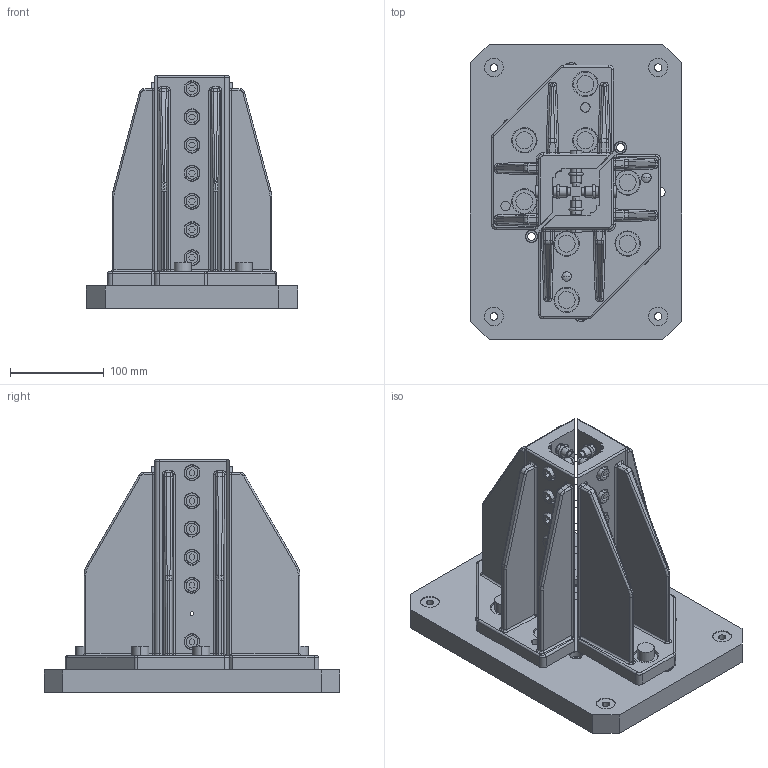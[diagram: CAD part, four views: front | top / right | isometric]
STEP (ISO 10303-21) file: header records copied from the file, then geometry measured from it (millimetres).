
FILE_DESCRIPTION(('CATIA V5 STEP','CAx-IF Rec.Pracs.--- Model Styling and Organization---1.2---2011-12-15'),'2;1');
FILE_NAME('C:\Users\juergen.ju\Desktop\EGT057_1707807_FLANSCHPLATTE_SW50_SENKRECHT.stp','2015-11-10T10:51:18+00:00',('${USER}'),('${GROUP}'),'CATIA Version 5-6 Release 2014 SP1 HF20','CATIA V5 STEP AP214','none');
FILE_SCHEMA(('AUTOMOTIVE_DESIGN { 1 0 10303 214 1 1 1 1 }'));
Products named in the file (1): EGT057_1707807_FLANSCHPLATTE_SW50_SENKRECHT
Bounding box: 225 x 315 x 248 mm (x, y, z)
Volume: 3560876.1 mm3; surface area: 660196.4 mm2
Topology: 35 solids, 61 shells, 1902 faces, 4934 edges, 3368 vertices
Faces by surface type: cylinder 886, plane 612, cone 252, torus 80, bspline 52, sphere 20
Entity records: 73456 total; most frequent: CARTESIAN_POINT 35749, ORIENTED_EDGE 9828, EDGE_CURVE 4914, B_SPLINE_CURVE_WITH_KNOTS 4401, DIRECTION 3700, VERTEX_POINT 3368, EDGE_LOOP 2324, ADVANCED_FACE 1902
